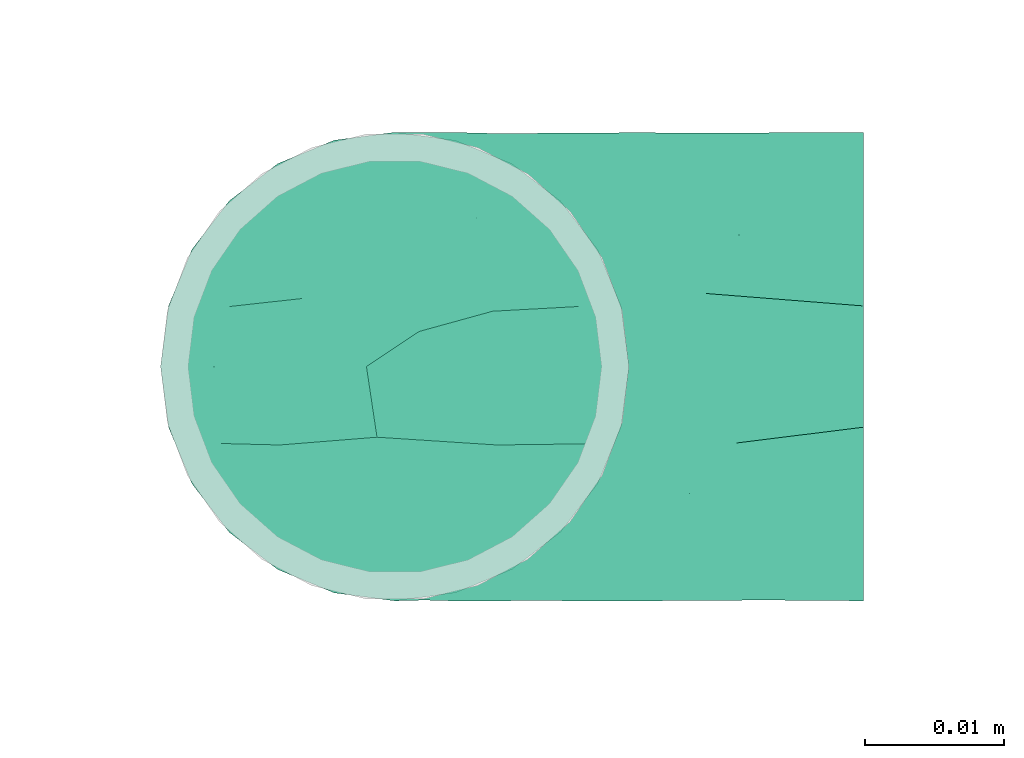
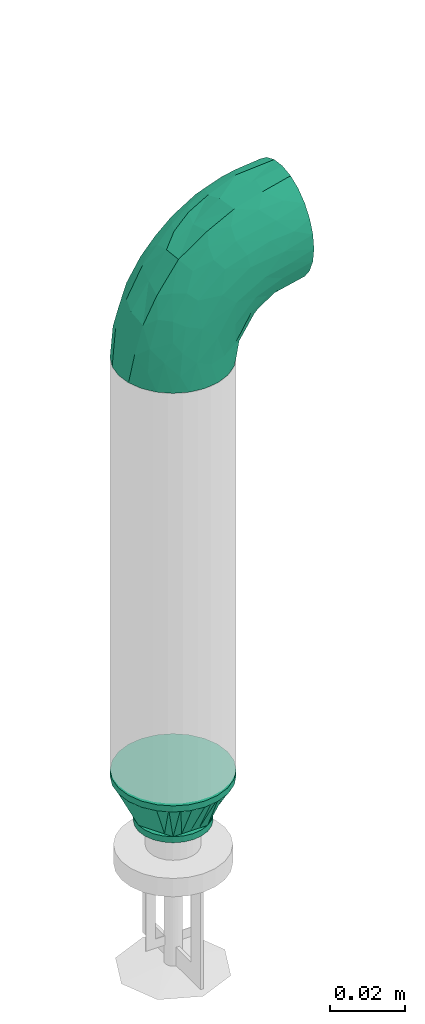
# One storey, part 66 of 157: 2 flow fittings.
"""IFC2X3 building model written with IfcOpenShell, lengths in millimetres."""

from ifc_helpers import new_model, entity, si_unit, converted_unit, derived_unit, direction, frame, origin_with_axes, place, context, subcontext, project, spatial, open_shell, surface_model, source, transform, mapped, type_object, element, save


model = new_model("IFC2X3")

# Units and contexts
model_context = context("Model", 3, precision=0.01, world=frame((0.0, 4.29681676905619e-09, 0.0)), true_north=direction((4.01073788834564e-13, 1.0)))
plan_context = context("Plan", 3, precision=0.01, world=frame((0.0, 4.29681676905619e-09, 0.0)), true_north=direction((4.01073788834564e-13, 1.0)))
body_context = subcontext(model_context, "Body", "Model", "MODEL_VIEW")
ifc_project = project(units=[converted_unit("PLANEANGLEUNIT", "DEGREE", entity("IfcPositiveLengthMeasure", 0.0174532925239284), si_unit("PLANEANGLEUNIT", "RADIAN"), dimensions=[0, 0, 0, 0, 0, 0, 0]), si_unit("AREAUNIT", "SQUARE_METRE"), si_unit("LENGTHUNIT", "METRE", prefix="MILLI"), si_unit("MASSUNIT", "GRAM", prefix="KILO"), si_unit("POWERUNIT", "WATT"), si_unit("PRESSUREUNIT", "PASCAL"), si_unit("FORCEUNIT", "NEWTON", prefix="KILO"), si_unit("ELECTRICCURRENTUNIT", "AMPERE"), si_unit("THERMODYNAMICTEMPERATUREUNIT", "DEGREE_CELSIUS"), si_unit("TIMEUNIT", "SECOND"), si_unit("VOLUMEUNIT", "CUBIC_METRE"), derived_unit("LINEARVELOCITYUNIT", [(si_unit("LENGTHUNIT", "METRE"), 1), (si_unit("TIMEUNIT", "SECOND"), -1)]), derived_unit("VOLUMETRICFLOWRATEUNIT", [(si_unit("VOLUMEUNIT", "CUBIC_METRE"), 1), (si_unit("TIMEUNIT", "SECOND"), -1)]), derived_unit("THERMALTRANSMITTANCEUNIT", [(si_unit("POWERUNIT", "WATT"), 1), (si_unit("THERMODYNAMICTEMPERATUREUNIT", "KELVIN"), -1), (si_unit("AREAUNIT", "SQUARE_METRE"), -1)])], contexts=[model_context, plan_context])

# Site, building, storey
site_placement = place(None, frame((0.0, -4.29681676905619e-09, 0.0), z_axis=(0.0, 0.0, 1.0), x_axis=(1.0, 0.0, 0.0)))
site = spatial("IfcSite", under=ifc_project, at=site_placement, CompositionType="ELEMENT")
building_placement = place(site_placement, frame((0.0, 4.29681676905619e-09, 0.0), z_axis=(0.0, 0.0, 1.0), x_axis=(1.0, 0.0, 0.0)))
building = spatial("IfcBuilding", under=site, at=building_placement, Name="mc-building", CompositionType="ELEMENT")
storey_placement = place(building_placement, frame((0.0, 0.0, 204000.0), z_axis=(0.0, 0.0, 1.0), x_axis=(1.0, 0.0, 0.0)))
storey = spatial("IfcBuildingStorey", under=building, at=storey_placement, Name="Nivå D", CompositionType="ELEMENT", Elevation=204000.0)

# Flow fittings
pipe_fitting_type_1 = type_object("IfcPipeFittingType", Name="magi_pipe_fe_elbow_short_001", PredefinedType="BEND")
shared_shape_1 = source(origin_with_axes(), body_context, "Body", "SurfaceModel", [
    surface_model("IfcShellBasedSurfaceModel", [(-33.8, 8.45, -14.63583), (-33.8, 4.37404, -16.32415), (-33.8, 11.9501, -11.9501), (-33.8, -11.9501, -11.9501), (-33.8, -14.63583, -8.45), (-33.8, -8.45, -14.63583), (-33.8, 0.0, -16.9), (-33.8, -4.37404, -16.32415), (-33.8, -4.37404, 16.32415), (-33.8, 0.0, 16.9), (-33.8, -8.45, 14.63583), (-33.8, 16.32415, -4.37404), (-33.8, 14.63583, -8.45), (-33.8, -16.32415, -4.37404), (-33.8, -16.9, 0.0), (-33.8, -16.32415, 4.37404), (-33.8, 11.9501, 11.9501), (-33.8, 14.63583, 8.45), (-33.8, 16.32415, 4.37404), (-33.8, 4.37404, 16.32415), (-33.8, 8.45, 14.63583), (-33.8, -14.63583, 8.45), (-33.8, -11.9501, 11.9501), (-33.8, 16.9, 0.0), (-11.9501, 33.8, -11.9501), (0.0, 33.8, -16.9), (-4.37404, 33.8, -16.32415), (-8.45, 33.8, -14.63583), (-14.63583, 33.8, -8.45), (-16.32415, 33.8, -4.37404), (14.63583, 33.8, -8.45), (8.45, 33.8, 14.63583), (16.32415, 33.8, -4.37404), (8.45, 33.8, -14.63583), (11.9501, 33.8, -11.9501), (4.37404, 33.8, -16.32415), (16.32415, 33.8, 4.37404), (16.9, 33.8, 0.0), (-11.9501, 33.8, 11.9501), (-16.32415, 33.8, 4.37404), (-14.63583, 33.8, 8.45), (-8.45, 33.8, 14.63583), (-4.37404, 33.8, 16.32415), (11.9501, 33.8, 11.9501), (14.63583, 33.8, 8.45), (0.0, 33.8, 16.9), (4.37404, 33.8, 16.32415), (-16.9, 33.8, 0.0), (-24.79389, -13.12945, 9.48721), (-22.19287, -9.75018, 12.59315), (-24.09897, -14.97035, 0.0), (-14.93934, -10.76256, 8.5297), (-22.46095, -14.75051, 5.27077), (14.75051, 22.46094, 5.27077), (11.9251, 13.23888, 4.33236), (13.04069, 14.39795, 0.0), (7.71387, 13.68847, 11.55891), (9.75018, 22.19287, 12.59315), (4.10169, 13.0571, 14.04018), (-24.84007, -6.39063, 15.2048), (-25.81779, -2.23879, 16.61097), (-23.66549, 2.59054, 16.87119), (-26.50418, 14.06512, 11.08152), (-24.21253, 17.66365, 7.72657), (-29.58514, 15.86957, 7.00283), (-6.17382, -7.5455, 0.0), (-13.23888, -11.9251, 4.33236), (-14.39795, -13.04069, 0.0), (-17.81434, 18.87373, 11.97104), (-6.30846, 29.15138, 15.82987), (-2.31622, 25.28002, 16.85849), (-29.23923, 10.23435, 13.77053), (-1.45439, -2.85688, 7.61475), (-0.28326, 0.34872, 10.09509), (-5.74484, -4.04709, 10.4122), (-4.41137, 11.31918, 16.59407), (-8.39727, 3.10034, 15.7812), (-1.72649, 9.1306, 15.53089), (-17.39909, 24.75344, 7.64977), (-26.19233, 20.0512, 0.0), (-28.14518, 17.29657, 4.25857), (-26.05147, 6.6281, 15.96447), (-5.87354, 16.61944, 16.86968), (-12.51807, 12.51807, 16.48937), (-10.06312, 7.38516, 16.81295), (-3.01882, 3.01882, 13.81718), (-13.0571, -4.10169, 14.04018), (-16.82553, -0.15166, 16.38038), (10.76256, 14.93934, 8.5297), (13.12945, 24.79389, 9.48721), (6.39063, 24.84007, 15.2048), (2.23879, 25.81779, 16.61097), (-13.68847, -7.71387, 11.55891), (14.97035, 24.09897, 0.0), (-7.30894, 22.89991, 16.09489), (-10.67958, 26.17414, 14.008), (-12.78295, 18.26924, 15.06066), (-13.88562, 22.45231, 12.93244), (-18.04944, 15.16501, 14.04434), (-23.11658, 20.08178, 4.02986), (-21.84989, 21.84989, 0.0), (-18.55817, 25.48277, 3.93065), (-13.95142, 26.94732, 11.03289), (-18.57098, 7.23906, 16.59756), (-16.58335, 4.14122, 16.89279), (-17.96666, 11.46709, 15.63151), (-9.84453, 17.54304, 16.18938), (0.15166, 16.82553, 16.38038), (-23.27207, 11.47201, 14.23154), (3.84842, 5.86994, 10.70473), (-8.0212, -7.54413, 7.93275), (1.00345, -2.19508, 4.57414), (5.13203, 3.01004, 5.90201), (5.24161, 1.7543, 2.53265), (8.70457, 7.04947, 3.99182), (-20.0512, 26.19233, 0.0), (8.4852, 8.76699, 7.09296), (-4.55488, -6.72064, 4.90681), (2.05031, -2.05031, 0.0), (7.5455, 6.17382, 0.0), (-26.75399, 2.1369, -16.845), (-14.61995, 24.73803, -11.27736), (-28.45274, -13.45335, -9.81895), (-26.00469, 6.63555, -15.96645), (-23.06726, 20.04573, -4.26202), (-13.80647, -4.26506, -14.17873), (-14.67501, -0.21081, -16.07388), (-6.7902, -0.2828, -13.8478), (-24.53586, 11.08096, -14.13417), (-26.72048, 14.00837, -11.05776), (10.0967, 24.44989, -12.75976), (5.83237, 21.40218, -15.03047), (6.66249, 28.54238, -15.38093), (-20.38182, 15.48705, -12.74596), (12.53268, 21.23441, -9.15363), (12.54494, 15.67504, -5.54878), (9.7522, 12.89279, -8.66343), (-15.65186, 19.64213, -13.01327), (-12.03528, 20.66498, -14.67665), (-15.61907, 15.61906, -14.83879), (-25.56551, -15.26206, 0.0), (-24.65452, -15.12934, -5.50955), (13.45335, 28.45274, -9.81895), (15.12934, 24.65452, -5.50955), (-7.35442, -8.31014, -5.65563), (-15.67504, -12.54494, -5.54878), (-24.44989, -10.0967, -12.75976), (0.16522, 0.41303, -9.71728), (-5.70658, -5.33066, -8.89288), (-5.13869, -2.37198, -11.53565), (-21.23441, -12.53268, -9.15363), (0.71146, 7.93863, -14.09382), (0.21081, 14.67501, -16.07388), (3.49291, 14.42772, -14.76381), (-24.89911, -2.13088, -16.591), (-28.54238, -6.66249, -15.38093), (-18.44386, -7.71663, -13.26957), (2.13088, 24.89911, -16.591), (-28.64342, 17.44413, -2.89318), (1.70017, -1.28722, -5.09504), (-16.57067, 26.81947, -7.36596), (-17.69055, 27.4263, -3.76405), (-12.89279, -9.7522, -8.66343), (-5.96611, 5.96611, -15.95814), (-20.53709, 20.09345, -8.28985), (-2.1369, 26.75399, -16.845), (-6.89872, 24.58781, -16.02578), (-10.60739, 26.53157, -13.98044), (-21.40218, -5.83237, -15.03047), (2.93192, 5.89627, -11.55917), (6.89393, 12.61842, -11.82233), (5.58056, 5.95325, -8.79455), (-3.99512, 18.61798, -16.89635), (8.31014, 7.35442, -5.65563), (-9.1383, 9.86148, -16.89041), (-9.99983, 16.02119, -16.39699), (-16.68576, 9.78031, -16.34199), (-27.01915, 16.61158, -7.12979), (15.26206, 25.56551, 0.0), (-18.61798, 3.99512, -16.89635), (-19.37495, 27.82495, 0.0), (-12.61842, -6.89393, -11.82233), (-18.84705, 19.14018, -10.96545)], [open_shell([[[0, 1, 2]], [[3, 4, 5]], [[6, 7, 5]], [[8, 9, 10]], [[1, 6, 2]], [[11, 12, 2]], [[4, 2, 6]], [[2, 13, 10]], [[5, 4, 6]], [[2, 4, 13]], [[14, 15, 13]], [[11, 2, 16]], [[11, 17, 18]], [[11, 16, 17]], [[19, 20, 16]], [[16, 2, 10]], [[19, 16, 10]], [[21, 22, 15]], [[22, 13, 15]], [[22, 10, 13]], [[10, 9, 19]], [[11, 18, 23]], [[24, 25, 26]], [[24, 26, 27]], [[24, 28, 29]], [[25, 24, 30]], [[31, 32, 24]], [[33, 30, 34]], [[33, 35, 25]], [[25, 30, 33]], [[32, 30, 24]], [[32, 36, 37]], [[38, 24, 29]], [[39, 40, 29]], [[40, 38, 29]], [[38, 41, 42]], [[38, 31, 24]], [[31, 38, 42]], [[36, 43, 44]], [[36, 32, 43]], [[31, 45, 46]], [[32, 31, 43]], [[42, 45, 31]], [[39, 29, 47]], [[22, 48, 49]], [[15, 14, 50]], [[51, 48, 52]], [[53, 54, 55]], [[48, 22, 21]], [[15, 52, 21]], [[56, 57, 58]], [[49, 10, 22]], [[49, 59, 10]], [[9, 60, 61]], [[62, 63, 64]], [[65, 66, 67]], [[57, 43, 31]], [[62, 68, 63]], [[42, 69, 70]], [[20, 71, 16]], [[8, 60, 9]], [[72, 73, 74]], [[75, 76, 77]], [[16, 62, 17]], [[40, 39, 78]], [[79, 23, 80]], [[64, 18, 17]], [[9, 61, 19]], [[19, 81, 20]], [[82, 83, 84]], [[74, 85, 86]], [[59, 86, 87]], [[88, 89, 57]], [[90, 31, 46]], [[44, 53, 36]], [[46, 45, 91]], [[54, 53, 88]], [[44, 89, 53]], [[92, 86, 49]], [[89, 44, 43]], [[10, 59, 8]], [[53, 55, 93]], [[93, 36, 53]], [[66, 52, 67]], [[94, 82, 70]], [[95, 96, 94]], [[97, 98, 96]], [[79, 99, 100]], [[41, 38, 95]], [[101, 100, 99]], [[68, 78, 63]], [[42, 41, 69]], [[23, 18, 80]], [[95, 94, 69]], [[78, 101, 99]], [[38, 102, 95]], [[70, 45, 42]], [[97, 95, 102]], [[15, 50, 52]], [[90, 57, 31]], [[57, 90, 58]], [[81, 19, 61]], [[103, 104, 84]], [[105, 81, 103]], [[38, 40, 102]], [[106, 96, 83]], [[94, 106, 82]], [[91, 70, 107]], [[71, 62, 16]], [[62, 108, 98]], [[86, 59, 49]], [[67, 52, 50]], [[60, 59, 87]], [[92, 49, 51]], [[86, 85, 76]], [[91, 90, 46]], [[37, 36, 93]], [[107, 77, 58]], [[107, 58, 90]], [[58, 85, 109]], [[110, 74, 92]], [[72, 74, 110]], [[66, 51, 52]], [[72, 111, 112]], [[113, 114, 112]], [[56, 88, 57]], [[52, 48, 21]], [[49, 48, 51]], [[57, 89, 43]], [[53, 89, 88]], [[103, 81, 61]], [[71, 81, 108]], [[18, 64, 80]], [[63, 78, 99]], [[47, 115, 101]], [[101, 115, 100]], [[40, 78, 102]], [[68, 102, 78]], [[97, 96, 95]], [[105, 98, 108]], [[103, 84, 83]], [[107, 70, 82]], [[76, 84, 87]], [[82, 84, 75]], [[70, 91, 45]], [[90, 91, 107]], [[59, 60, 8]], [[61, 60, 87]], [[73, 85, 74]], [[109, 112, 116]], [[103, 61, 104]], [[105, 103, 83]], [[96, 105, 83]], [[81, 105, 108]], [[96, 98, 105]], [[62, 98, 68]], [[61, 87, 104]], [[87, 84, 104]], [[86, 76, 87]], [[77, 76, 85]], [[58, 77, 85]], [[75, 77, 107]], [[82, 75, 107]], [[76, 75, 84]], [[81, 71, 20]], [[62, 71, 108]], [[95, 69, 41]], [[70, 69, 94]], [[62, 64, 17]], [[80, 63, 99]], [[63, 80, 64]], [[80, 99, 79]], [[66, 65, 117]], [[110, 66, 117]], [[112, 114, 116]], [[118, 117, 65]], [[110, 92, 51]], [[112, 111, 113]], [[119, 55, 54]], [[74, 86, 92]], [[58, 109, 56]], [[116, 56, 109]], [[66, 110, 51]], [[72, 110, 117]], [[111, 72, 117]], [[73, 112, 109]], [[117, 118, 111]], [[113, 111, 118]], [[118, 119, 113]], [[114, 119, 54]], [[119, 114, 113]], [[116, 54, 88]], [[54, 116, 114]], [[116, 88, 56]], [[112, 73, 72]], [[85, 73, 109]], [[78, 39, 101]], [[47, 101, 39]], [[102, 68, 97]], [[97, 68, 98]], [[82, 106, 83]], [[94, 96, 106]], [[1, 120, 6]], [[28, 24, 121]], [[3, 122, 4]], [[0, 123, 1]], [[100, 124, 79]], [[125, 126, 127]], [[128, 2, 129]], [[130, 131, 132]], [[128, 129, 133]], [[134, 135, 136]], [[137, 138, 139]], [[128, 0, 2]], [[67, 140, 141]], [[134, 142, 143]], [[141, 13, 4]], [[144, 65, 145]], [[146, 3, 5]], [[147, 148, 149]], [[145, 141, 150]], [[151, 152, 153]], [[154, 7, 6]], [[5, 155, 146]], [[150, 146, 156]], [[155, 5, 7]], [[143, 135, 134]], [[35, 157, 25]], [[23, 79, 158]], [[148, 159, 144]], [[160, 161, 29]], [[145, 162, 144]], [[163, 152, 151]], [[29, 28, 160]], [[121, 164, 160]], [[33, 34, 130]], [[25, 165, 26]], [[26, 165, 166]], [[142, 34, 30]], [[24, 27, 167]], [[124, 161, 164]], [[157, 35, 132]], [[155, 154, 168]], [[123, 0, 128]], [[169, 170, 171]], [[172, 157, 152]], [[26, 166, 27]], [[132, 35, 33]], [[142, 130, 34]], [[168, 154, 126]], [[136, 135, 173]], [[133, 137, 139]], [[2, 12, 129]], [[170, 131, 130]], [[30, 32, 143]], [[172, 174, 175]], [[176, 123, 128]], [[158, 177, 11]], [[135, 55, 119]], [[167, 27, 166]], [[175, 166, 172]], [[137, 167, 138]], [[122, 141, 4]], [[140, 14, 13]], [[32, 37, 178]], [[170, 130, 134]], [[152, 157, 131]], [[165, 157, 172]], [[153, 170, 151]], [[152, 163, 174]], [[168, 125, 156]], [[122, 146, 150]], [[120, 154, 6]], [[179, 174, 126]], [[179, 126, 154]], [[126, 163, 127]], [[162, 145, 150]], [[140, 13, 141]], [[32, 178, 143]], [[55, 143, 178]], [[177, 129, 12]], [[128, 133, 139]], [[176, 128, 139]], [[120, 123, 179]], [[121, 160, 28]], [[161, 100, 180]], [[166, 175, 138]], [[121, 24, 167]], [[161, 47, 29]], [[79, 124, 158]], [[124, 164, 177]], [[161, 124, 100]], [[136, 171, 170]], [[127, 163, 151]], [[147, 171, 159]], [[148, 144, 162]], [[127, 151, 169]], [[127, 181, 125]], [[129, 177, 164]], [[12, 11, 177]], [[159, 65, 144]], [[67, 141, 145]], [[143, 55, 135]], [[135, 119, 173]], [[123, 120, 1]], [[154, 120, 179]], [[157, 165, 25]], [[166, 165, 172]], [[172, 152, 174]], [[176, 139, 175]], [[126, 174, 163]], [[176, 174, 179]], [[174, 176, 175]], [[123, 176, 179]], [[150, 181, 162]], [[127, 149, 181]], [[181, 148, 162]], [[159, 148, 147]], [[171, 136, 173]], [[170, 134, 136]], [[159, 171, 173]], [[171, 147, 169]], [[169, 147, 149]], [[151, 170, 169]], [[164, 182, 129]], [[182, 121, 137]], [[181, 149, 148]], [[169, 149, 127]], [[182, 137, 133]], [[167, 137, 121]], [[166, 138, 167]], [[175, 139, 138]], [[129, 182, 133]], [[121, 182, 164]], [[161, 160, 164]], [[47, 161, 180]], [[177, 158, 124]], [[23, 158, 11]], [[130, 132, 33]], [[157, 132, 131]], [[143, 142, 30]], [[130, 142, 134]], [[154, 155, 7]], [[146, 155, 168]], [[146, 122, 3]], [[141, 122, 150]], [[152, 131, 153]], [[159, 119, 118]], [[67, 145, 65]], [[170, 153, 131]], [[119, 159, 173]], [[159, 118, 65]], [[156, 125, 181]], [[126, 125, 168]], [[150, 156, 181]], [[168, 156, 146]]])]),
])
flow_fitting_1_placement = place(storey_placement, frame((517272.81857, 414941.276, 2580.0), z_axis=(0.0, 1.0, 0.0), x_axis=(0.0, 0.0, 1.0)))
element("IfcFlowFitting", 1, at=flow_fitting_1_placement, inside=storey, type_object=pipe_fitting_type_1, Name="magi_pipe_fe_elbow_short_001", context=body_context, shape_type="MappedRepresentation", body=[
    mapped(shared_shape_1, transform((0.0, 0.0, 0.0), scale=1.0)),
])
pipe_fitting_type_2 = type_object("IfcPipeFittingType", Name="magi_pipe_fe_reducer_centric_short_NOR", PredefinedType="TRANSITION")
shared_shape_2 = source(origin_with_axes(), body_context, "Body", "SurfaceModel", [
    surface_model("IfcShellBasedSurfaceModel", [(-2.0, -7.56604, -7.56604), (-2.0, -10.33541, -2.76936), (-2.0, -5.35, -9.26647), (-2.0, 5.35, -9.26647), (-2.0, 10.33541, -2.76936), (-2.0, 7.56604, -7.56604), (12.4, 11.9501, 11.9501), (12.4, 0.0, 16.9), (12.4, 11.9501, -11.9501), (12.4, 16.9, 0.0), (0.0, -10.7, 0.0), (0.0, -5.35, 9.26647), (0.0, -5.35, -9.26647), (0.0, 10.7, 0.0), (12.4, 15.66253, -2.98753), (12.4, 8.96258, -13.18758), (0.0, 6.6875, -6.94985), (12.4, -15.66253, -2.98753), (12.4, -16.9, 0.0), (12.4, 5.97505, -14.42505), (0.0, 5.35, -9.26647), (12.4, 14.42505, -5.97505), (0.0, 8.025, -4.63324), (0.0, 9.3625, -2.31662), (0.0, -9.3625, -2.31662), (0.0, -8.025, -4.63324), (12.4, -14.42505, -5.97505), (12.4, 13.18758, -8.96258), (12.4, -13.18758, -8.96258), (12.4, -11.9501, -11.9501), (0.0, -6.6875, -6.94985), (12.4, -8.96258, -13.18758), (12.4, -5.97505, -14.42505), (12.4, -15.66253, 2.98753), (12.4, -8.96258, 13.18758), (0.0, -6.6875, 6.94985), (12.4, -11.9501, 11.9501), (12.4, 15.66253, 2.98753), (12.4, -5.97505, 14.42505), (12.4, -14.42505, 5.97505), (0.0, -8.025, 4.63324), (0.0, -9.3625, 2.31662), (0.0, 9.3625, 2.31662), (0.0, 8.025, 4.63324), (12.4, 14.42505, 5.97505), (12.4, -13.18758, 8.96258), (12.4, 13.18758, 8.96258), (0.0, 6.6875, 6.94985), (12.4, 8.96258, 13.18758), (0.0, 5.35, 9.26647), (12.4, 5.97505, 14.42505), (14.4, 4.37404, -16.32415), (14.4, 8.45, -14.63583), (14.4, 11.9501, -11.9501), (14.4, -8.45, -14.63583), (14.4, 16.32415, -4.37404), (14.4, 16.32415, 4.37404), (14.4, 14.63583, -8.45), (14.4, 0.0, -16.9), (14.4, -4.37404, -16.32415), (14.4, -11.9501, -11.9501), (14.4, -16.32415, -4.37404), (14.4, -14.63583, -8.45), (14.4, -16.32415, 4.37404), (14.4, 16.9, 0.0), (14.4, 14.63583, 8.45), (14.4, 11.9501, 11.9501), (14.4, 4.37404, 16.32415), (14.4, 8.45, 14.63583), (14.4, 0.0, 16.9), (14.4, -14.63583, 8.45), (14.4, -16.9, 0.0), (14.4, -8.45, 14.63583), (14.4, -11.9501, 11.9501), (14.4, -4.37404, 16.32415), (12.4, 4.37404, 16.32415), (12.4, -14.63583, 8.45), (12.4, 16.32415, 4.37404), (12.4, 8.45, 14.63583), (12.4, 14.63583, 8.45), (12.4, -8.45, 14.63583), (12.4, -4.37404, 16.32415), (12.4, -16.32415, 4.37404), (12.4, -16.32415, -4.37404), (12.4, -8.45, -14.63583), (12.4, 16.32415, -4.37404), (12.4, 14.63583, -8.45), (12.4, 8.45, -14.63583), (12.4, 4.37404, -16.32415), (12.4, 0.0, -16.9), (12.4, -14.63583, -8.45), (12.4, -4.37404, -16.32415), (-2.0, 2.76936, 10.33541), (-2.0, 0.0, 10.7), (-2.0, 5.35, 9.26647), (-2.0, 7.56604, 7.56604), (-2.0, 9.26647, 5.35), (-2.0, 10.33541, 2.76936), (-2.0, -10.33541, 2.76936), (-2.0, -2.76936, 10.33541), (-2.0, -7.56604, 7.56604), (-2.0, -5.35, 9.26647), (-2.0, -9.26647, 5.35), (-2.0, -10.7, 0.0), (-2.0, 9.26647, -5.35), (-2.0, 2.76936, -10.33541), (-2.0, -9.26647, -5.35), (-2.0, 0.0, -10.7), (-2.0, -2.76936, -10.33541), (-2.0, 10.7, 0.0), (0.0, 0.0, -10.7), (0.0, 2.76936, -10.33541), (0.0, 10.33541, -2.76936), (0.0, 7.56604, -7.56604), (0.0, -10.33541, -2.76936), (0.0, 9.26647, -5.35), (0.0, 0.0, 10.7), (0.0, -2.76936, -10.33541), (0.0, -7.56604, -7.56604), (0.0, -9.26647, -5.35), (0.0, 10.33541, 2.76936), (0.0, 9.26647, 5.35), (0.0, 7.56604, 7.56604), (0.0, 2.76936, 10.33541), (0.0, -7.56604, 7.56604), (0.0, -10.33541, 2.76936), (0.0, -9.26647, 5.35), (0.0, -2.76936, 10.33541), (0.0, 2.675, -9.26647), (0.0, -2.675, -9.26647), (12.4, 2.98753, -15.66253), (0.0, 0.0, -9.26647), (12.4, -2.98753, -15.66253), (0.0, -2.675, 9.26647), (0.0, 2.675, 9.26647), (12.4, -2.98753, 15.66253), (0.0, 0.0, 9.26647), (12.4, 2.98753, 15.66253)], [open_shell([[[0, 1, 2]], [[3, 4, 5]], [[6, 7, 8]], [[8, 9, 6]], [[10, 11, 12]], [[13, 9, 14]], [[15, 16, 8]], [[17, 18, 10]], [[15, 19, 20]], [[21, 22, 23]], [[24, 25, 26]], [[22, 21, 27]], [[28, 26, 25]], [[29, 30, 31]], [[12, 32, 31]], [[10, 18, 33]], [[34, 35, 36]], [[37, 9, 13]], [[34, 38, 11]], [[39, 40, 41]], [[42, 43, 44]], [[40, 39, 45]], [[46, 44, 43]], [[6, 47, 48]], [[49, 50, 48]], [[51, 52, 53]], [[54, 51, 53]], [[53, 55, 56]], [[55, 53, 57]], [[53, 56, 54]], [[58, 54, 59]], [[58, 51, 54]], [[60, 61, 62]], [[61, 60, 54]], [[54, 63, 61]], [[56, 55, 64]], [[56, 65, 66]], [[56, 66, 67]], [[67, 63, 54]], [[67, 66, 68]], [[63, 67, 69]], [[69, 70, 63]], [[71, 61, 63]], [[70, 72, 73]], [[70, 69, 72]], [[72, 69, 74]], [[54, 56, 67]], [[75, 76, 7]], [[77, 75, 78]], [[6, 79, 77]], [[6, 77, 78]], [[76, 75, 77]], [[80, 76, 36]], [[80, 81, 7]], [[7, 76, 80]], [[82, 76, 77]], [[82, 83, 18]], [[82, 77, 84]], [[77, 85, 8]], [[8, 85, 86]], [[8, 87, 88]], [[84, 77, 8]], [[88, 89, 8]], [[83, 29, 90]], [[29, 83, 84]], [[84, 89, 91]], [[83, 82, 84]], [[8, 89, 84]], [[85, 77, 9]], [[83, 61, 18]], [[90, 62, 83]], [[54, 29, 84]], [[90, 29, 60]], [[59, 84, 91]], [[83, 62, 61]], [[61, 71, 18]], [[59, 54, 84]], [[60, 29, 54]], [[60, 62, 90]], [[58, 59, 91]], [[91, 89, 58]], [[88, 51, 89]], [[87, 52, 88]], [[57, 8, 86]], [[87, 8, 53]], [[55, 86, 85]], [[87, 53, 52]], [[52, 51, 88]], [[64, 55, 85]], [[57, 86, 55]], [[57, 53, 8]], [[9, 64, 85]], [[89, 51, 58]], [[77, 56, 9]], [[79, 65, 77]], [[68, 6, 78]], [[79, 6, 66]], [[67, 78, 75]], [[77, 65, 56]], [[56, 64, 9]], [[67, 68, 78]], [[66, 6, 68]], [[66, 65, 79]], [[69, 67, 75]], [[75, 7, 69]], [[81, 74, 7]], [[80, 72, 81]], [[70, 36, 76]], [[80, 36, 73]], [[63, 76, 82]], [[80, 73, 72]], [[72, 74, 81]], [[71, 63, 82]], [[70, 76, 63]], [[70, 73, 36]], [[18, 71, 82]], [[7, 74, 69]], [[92, 1, 93]], [[94, 1, 92]], [[95, 96, 97]], [[95, 97, 94]], [[98, 93, 1]], [[99, 100, 101]], [[99, 93, 100]], [[100, 98, 102]], [[93, 98, 100]], [[98, 1, 103]], [[94, 97, 1]], [[1, 97, 4]], [[5, 4, 104]], [[4, 3, 1]], [[105, 1, 3]], [[1, 0, 106]], [[2, 107, 108]], [[2, 1, 105]], [[105, 107, 2]], [[4, 97, 109]], [[20, 110, 111]], [[112, 20, 113]], [[114, 20, 112]], [[112, 113, 115]], [[116, 114, 112]], [[110, 12, 117]], [[110, 20, 12]], [[118, 114, 119]], [[114, 118, 12]], [[20, 114, 12]], [[112, 13, 120]], [[120, 121, 122]], [[120, 122, 123]], [[116, 112, 123]], [[123, 122, 49]], [[116, 124, 114]], [[125, 124, 126]], [[10, 114, 125]], [[124, 127, 11]], [[125, 114, 124]], [[127, 124, 116]], [[123, 112, 120]], [[1, 114, 103]], [[106, 119, 1]], [[12, 0, 2]], [[106, 0, 118]], [[117, 2, 108]], [[1, 119, 114]], [[114, 10, 103]], [[117, 12, 2]], [[118, 0, 12]], [[118, 119, 106]], [[110, 117, 108]], [[108, 107, 110]], [[105, 111, 107]], [[3, 20, 105]], [[115, 5, 104]], [[3, 5, 113]], [[112, 104, 4]], [[3, 113, 20]], [[20, 111, 105]], [[13, 112, 4]], [[115, 104, 112]], [[115, 113, 5]], [[109, 13, 4]], [[107, 111, 110]], [[97, 120, 109]], [[96, 121, 97]], [[49, 95, 94]], [[96, 95, 122]], [[123, 94, 92]], [[97, 121, 120]], [[120, 13, 109]], [[123, 49, 94]], [[122, 95, 49]], [[122, 121, 96]], [[116, 123, 92]], [[92, 93, 116]], [[99, 127, 93]], [[101, 11, 99]], [[126, 100, 102]], [[101, 100, 124]], [[125, 102, 98]], [[101, 124, 11]], [[11, 127, 99]], [[10, 125, 98]], [[126, 102, 125]], [[126, 124, 100]], [[103, 10, 98]], [[93, 127, 116]], [[18, 7, 36]], [[18, 29, 8]], [[89, 8, 29]], [[18, 8, 7]], [[13, 11, 49]], [[13, 20, 12]], [[13, 12, 11]], [[24, 26, 17]], [[10, 24, 17]], [[16, 15, 20]], [[30, 12, 31]], [[23, 14, 21]], [[19, 128, 20]], [[27, 8, 16]], [[32, 12, 129]], [[30, 28, 25]], [[130, 131, 128]], [[129, 132, 32]], [[16, 22, 27]], [[13, 14, 23]], [[128, 19, 130]], [[130, 89, 131]], [[131, 132, 129]], [[89, 132, 131]], [[28, 30, 29]], [[42, 44, 37]], [[13, 42, 37]], [[35, 34, 11]], [[47, 49, 48]], [[41, 33, 39]], [[38, 133, 11]], [[45, 36, 35]], [[50, 49, 134]], [[47, 46, 43]], [[135, 136, 133]], [[134, 137, 50]], [[35, 40, 45]], [[10, 33, 41]], [[133, 38, 135]], [[135, 7, 136]], [[136, 137, 134]], [[7, 137, 136]], [[46, 47, 6]]])]),
])
flow_fitting_2_placement = place(storey_placement, frame((517272.81857, 414941.276, 2396.95199999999), z_axis=(0.0, -1.0, 0.0), x_axis=(0.0, 0.0, 1.0)))
element("IfcFlowFitting", 2, at=flow_fitting_2_placement, inside=storey, type_object=pipe_fitting_type_2, Name="magi_pipe_fe_reducer_centric_short_NOR", context=body_context, shape_type="MappedRepresentation", body=[
    mapped(shared_shape_2, transform((0.0, 0.0, 0.0), scale=1.0)),
])

save(model, "model.ifc")
